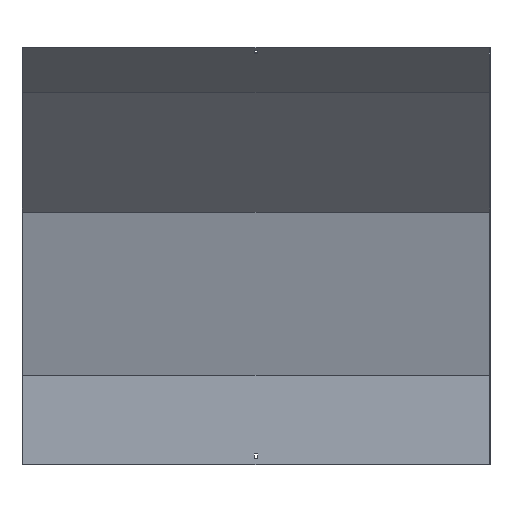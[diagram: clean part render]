
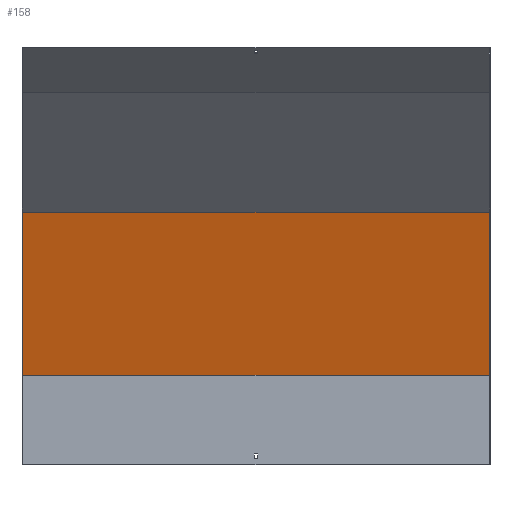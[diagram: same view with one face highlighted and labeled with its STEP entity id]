
A CAD part, front view. The second image highlights one B-rep face of the part: STEP entity #158.
In plain terms, the highlighted planar face has unit normal (0, -0.966, -0.259).
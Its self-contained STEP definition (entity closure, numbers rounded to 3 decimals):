
#46 = LINE ( 'NONE', #519, #258 ) ;
#60 = DIRECTION ( 'NONE',  ( 0., -0.966, -0.259 ) ) ;
#89 = ORIENTED_EDGE ( 'NONE', *, *, #533, .T. ) ;
#131 = CARTESIAN_POINT ( 'NONE',  ( 450., 18.5, 172.436 ) ) ;
#136 = CARTESIAN_POINT ( 'NONE',  ( 450., -65.977, 487.707 ) ) ;
#158 = ADVANCED_FACE ( 'NONE', ( #970 ), #688, .T. ) ;
#168 = CARTESIAN_POINT ( 'NONE',  ( -450., 60.37, 16.176 ) ) ;
#197 = VERTEX_POINT ( 'NONE', #131 ) ;
#218 = EDGE_CURVE ( 'NONE', #197, #470, #975, .T. ) ;
#228 = VECTOR ( 'NONE', #655, 1000. ) ;
#249 = VERTEX_POINT ( 'NONE', #136 ) ;
#258 = VECTOR ( 'NONE', #296, 1000. ) ;
#296 = DIRECTION ( 'NONE',  ( -1., 0., 0. ) ) ;
#309 = ORIENTED_EDGE ( 'NONE', *, *, #715, .F. ) ;
#354 = VECTOR ( 'NONE', #894, 1000. ) ;
#361 = CARTESIAN_POINT ( 'NONE',  ( -450., -65.977, 487.707 ) ) ;
#376 = CARTESIAN_POINT ( 'NONE',  ( 451.5, 17.87, 174.788 ) ) ;
#458 = EDGE_CURVE ( 'NONE', #197, #249, #492, .T. ) ;
#470 = VERTEX_POINT ( 'NONE', #635 ) ;
#492 = LINE ( 'NONE', #796, #228 ) ;
#519 = CARTESIAN_POINT ( 'NONE',  ( 451.5, -65.977, 487.707 ) ) ;
#533 = EDGE_CURVE ( 'NONE', #249, #977, #46, .T. ) ;
#552 = AXIS2_PLACEMENT_3D ( 'NONE', #376, #60, #589 ) ;
#553 = LINE ( 'NONE', #168, #711 ) ;
#589 = DIRECTION ( 'NONE',  ( 0., 0.259, -0.966 ) ) ;
#635 = CARTESIAN_POINT ( 'NONE',  ( -450., 18.5, 172.436 ) ) ;
#652 = ORIENTED_EDGE ( 'NONE', *, *, #218, .F. ) ;
#655 = DIRECTION ( 'NONE',  ( 0., -0.259, 0.966 ) ) ;
#688 = PLANE ( 'NONE',  #552 ) ;
#711 = VECTOR ( 'NONE', #765, 1000. ) ;
#715 = EDGE_CURVE ( 'NONE', #470, #977, #553, .T. ) ;
#765 = DIRECTION ( 'NONE',  ( 0., -0.259, 0.966 ) ) ;
#796 = CARTESIAN_POINT ( 'NONE',  ( 450., 60.37, 16.176 ) ) ;
#891 = EDGE_LOOP ( 'NONE', ( #309, #652, #950, #89 ) ) ;
#894 = DIRECTION ( 'NONE',  ( -1., 0., 0. ) ) ;
#950 = ORIENTED_EDGE ( 'NONE', *, *, #458, .T. ) ;
#970 = FACE_OUTER_BOUND ( 'NONE', #891, .T. ) ;
#975 = LINE ( 'NONE', #980, #354 ) ;
#977 = VERTEX_POINT ( 'NONE', #361 ) ;
#980 = CARTESIAN_POINT ( 'NONE',  ( 451.5, 18.5, 172.436 ) ) ;
